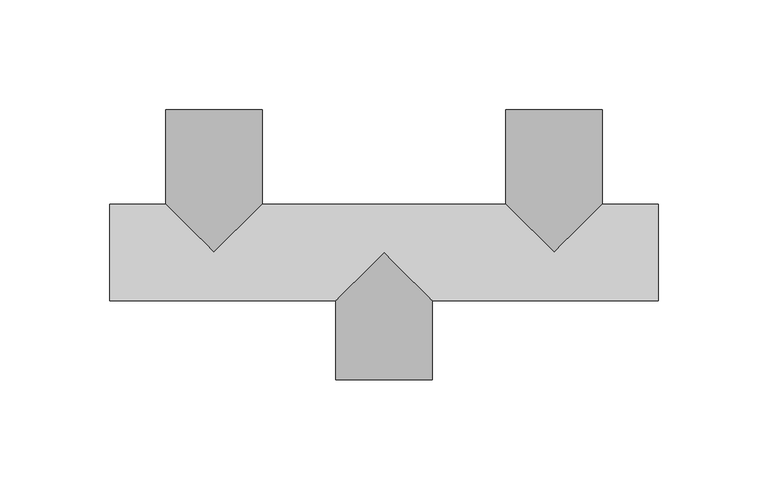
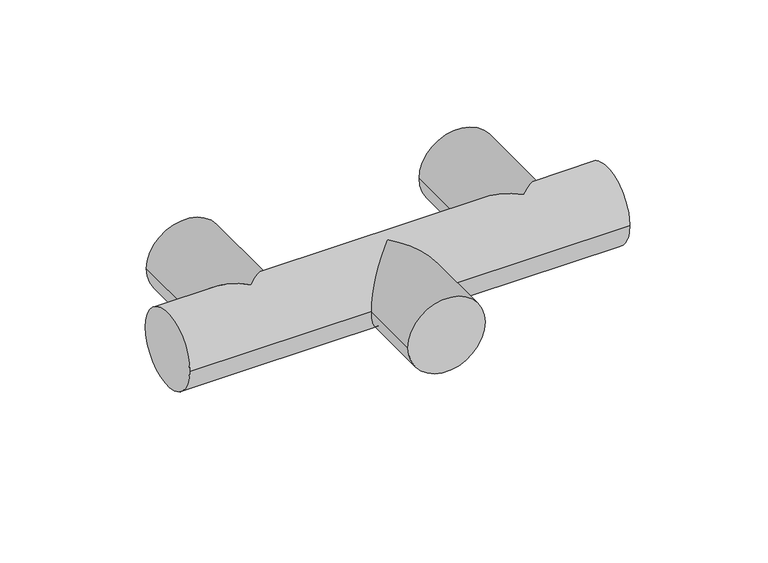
"""IFC4 building model written with IfcOpenShell, lengths in millimetres: flow terminal geometry, BIMHealth-Taps_IPS-LOD2A-v1 : BIMHealth-Taps_IPS-LOD2A-v1."""

from ifc_helpers import new_model, si_unit, point, frame, frame_2d, origin, place, context, project, spatial, circle_curve, ellipse_curve, trimmed, segment, composite_curve, outline, extrude, source, transform, mapped, element, save
from ifc_brep_helpers import plane_surface, cylinder_surface, advanced_brep


def flow_terminal_f04b013f(model_context):
    return source(origin(), model_context, "Body", "SolidModel", [
        extrude(outline(composite_curve([segment(trimmed(circle_curve(frame_2d((202.5, 45.0)), 10.0), [point((212.5, 45.0))], [point((192.5, 45.0))], False, "CARTESIAN"), True, "CONTINUOUS"), segment(trimmed(circle_curve(frame_2d((202.5, 45.0)), 10.0), [point((192.5, 45.0))], [point((212.5, 45.0))], False, "CARTESIAN"), True, "CONTINUOUS")], self_intersect=False)), frame((0.0, 0.0, -32.2162266), z_axis=(0.0, 0.0, 1.0), x_axis=(1.0, 0.0, 0.0)), (0.0, 0.0, 1.0), 32.2162266),
        extrude(outline(composite_curve([segment(trimmed(circle_curve(frame_2d((47.5, 45.0)), 10.0), [point((37.5, 45.0))], [point((57.5, 45.0))], False, "CARTESIAN"), True, "CONTINUOUS"), segment(trimmed(circle_curve(frame_2d((47.5, 45.0)), 10.0), [point((57.5, 45.0))], [point((37.5, 45.0))], False, "CARTESIAN"), True, "CONTINUOUS")], self_intersect=False)), frame((0.0, 0.0, -32.2162266), z_axis=(0.0, 0.0, 1.0), x_axis=(1.0, 0.0, 0.0)), (0.0, 0.0, 1.0), 32.2162266),
        advanced_brep(
        [(250.0, -22.0, 0.0), (250.0, 22.0, 0.0), (0.0, -22.0, 0.0), (0.0, 22.0, 0.0), (224.5, 22.0, 0.0), (202.5, 0.0, 22.0), (180.5, 22.0, 0.0), (69.5, 22.0, 0.0), (47.5, 0.0, 22.0), (25.5, 22.0, 0.0), (103.0, -22.0, 0.0), (125.0, 0.0, 22.0), (147.0, -22.0, 0.0), (125.0, 0.0, -22.0), (47.5, 0.0, -22.0), (202.5, 0.0, -22.0), (69.5, 65.0, 0.0), (25.5, 65.0, 0.0), (180.5, 65.0, 0.0), (224.5, 65.0, 0.0), (147.0, -58.1543621, 0.0), (103.0, -58.1543621, 0.0)],
        [
            (0, 1, circle_curve(frame((250.0, 0.0, 0.0), z_axis=(1.0, 0.0, 0.0), x_axis=(0.0, 1.0, 0.0)), 22.0)),
            (1, 0, circle_curve(frame((250.0, 0.0, 0.0), z_axis=(1.0, 0.0, 0.0), x_axis=(0.0, 1.0, 0.0)), 22.0)),
            (2, 3, circle_curve(frame((0.0, 0.0, 0.0), z_axis=(-1.0, 0.0, 0.0), x_axis=(0.0, 1.0, 0.0)), 22.0)),
            (3, 2, circle_curve(frame((0.0, 0.0, 0.0), z_axis=(-1.0, 0.0, 0.0), x_axis=(0.0, 1.0, 0.0)), 22.0)),
            (1, 4),
            (4, 5, ellipse_curve(frame((202.5, 0.0, 0.0), z_axis=(0.7071067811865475, -0.7071067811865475, 0.0), x_axis=(0.7071067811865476, 0.7071067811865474, 0.0)), 31.1126984, 22.0)),
            (5, 6, ellipse_curve(frame((202.5, 0.0, 0.0), z_axis=(-0.7071067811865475, -0.7071067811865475, 0.0), x_axis=(0.7071067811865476, -0.7071067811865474, 0.0)), 31.1126984, 22.0)),
            (6, 7),
            (7, 8, ellipse_curve(frame((47.5, 0.0, 0.0), z_axis=(0.7071067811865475, -0.7071067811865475, 0.0), x_axis=(0.7071067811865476, 0.7071067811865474, 0.0)), 31.1126984, 22.0)),
            (8, 9, ellipse_curve(frame((47.5, 0.0, 0.0), z_axis=(-0.7071067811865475, -0.7071067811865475, 0.0), x_axis=(0.7071067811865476, -0.7071067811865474, 0.0)), 31.1126984, 22.0)),
            (9, 3),
            (2, 10),
            (10, 11, ellipse_curve(frame((125.0, 0.0, 0.0), z_axis=(-0.7071067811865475, 0.7071067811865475, 0.0), x_axis=(0.7071067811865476, 0.7071067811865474, 0.0)), 31.1126984, 22.0)),
            (11, 12, ellipse_curve(frame((125.0, 0.0, 0.0), z_axis=(0.7071067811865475, 0.7071067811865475, 0.0), x_axis=(0.7071067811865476, -0.7071067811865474, 0.0)), 31.1126984, 22.0)),
            (12, 0),
            (12, 13, ellipse_curve(frame((125.0, 0.0, 0.0), z_axis=(0.7071067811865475, 0.7071067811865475, 0.0), x_axis=(0.7071067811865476, -0.7071067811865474, 0.0)), 31.1126984, 22.0)),
            (13, 10, ellipse_curve(frame((125.0, 0.0, 0.0), z_axis=(-0.7071067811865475, 0.7071067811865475, 0.0), x_axis=(0.7071067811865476, 0.7071067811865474, 0.0)), 31.1126984, 22.0)),
            (9, 14, ellipse_curve(frame((47.5, 0.0, 0.0), z_axis=(-0.7071067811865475, -0.7071067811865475, 0.0), x_axis=(0.7071067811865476, -0.7071067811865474, 0.0)), 31.1126984, 22.0)),
            (14, 7, ellipse_curve(frame((47.5, 0.0, 0.0), z_axis=(0.7071067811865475, -0.7071067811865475, 0.0), x_axis=(0.7071067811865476, 0.7071067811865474, 0.0)), 31.1126984, 22.0)),
            (6, 15, ellipse_curve(frame((202.5, 0.0, 0.0), z_axis=(-0.7071067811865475, -0.7071067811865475, 0.0), x_axis=(0.7071067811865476, -0.7071067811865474, 0.0)), 31.1126984, 22.0)),
            (15, 4, ellipse_curve(frame((202.5, 0.0, 0.0), z_axis=(0.7071067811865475, -0.7071067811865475, 0.0), x_axis=(0.7071067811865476, 0.7071067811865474, 0.0)), 31.1126984, 22.0)),
            (16, 17, circle_curve(frame((47.5, 65.0, 0.0), z_axis=(0.0, 1.0, 0.0), x_axis=(-1.0, 0.0, 0.0)), 22.0)),
            (17, 16, circle_curve(frame((47.5, 65.0, 0.0), z_axis=(0.0, 1.0, 0.0), x_axis=(-1.0, 0.0, 0.0)), 22.0)),
            (18, 19, circle_curve(frame((202.5, 65.0, 0.0), z_axis=(0.0, 1.0, 0.0), x_axis=(1.0, 0.0, 0.0)), 22.0)),
            (19, 18, circle_curve(frame((202.5, 65.0, 0.0), z_axis=(0.0, 1.0, 0.0), x_axis=(1.0, 0.0, 0.0)), 22.0)),
            (17, 9),
            (7, 16),
            (19, 4),
            (6, 18),
            (20, 21, circle_curve(frame((125.0, -58.1543621, 0.0), z_axis=(0.0, -1.0, 0.0), x_axis=(-1.0, 0.0, 0.0)), 22.0)),
            (21, 20, circle_curve(frame((125.0, -58.1543621, 0.0), z_axis=(0.0, -1.0, 0.0), x_axis=(-1.0, 0.0, 0.0)), 22.0)),
            (20, 12),
            (10, 21),
        ],
        [
            plane_surface(frame((250.0, 22.0, 0.0), z_axis=(1.0, 0.0, 0.0), x_axis=(0.0, 0.0, -1.0))),
            plane_surface(frame((0.0, 22.0, 0.0), z_axis=(-1.0, 0.0, 0.0), x_axis=(0.0, 0.0, 1.0))),
            cylinder_surface(frame((0.0, 0.0, 0.0), z_axis=(1.0, 0.0, 0.0), x_axis=(0.0, 1.0, 0.0)), 22.0),
            plane_surface(frame((25.5, 65.0, 0.0), z_axis=(0.0, 1.0, 0.0), x_axis=(0.0, 0.0, -1.0))),
            cylinder_surface(frame((47.5, 0.0, 0.0), z_axis=(0.0, 1.0, 0.0), x_axis=(-1.0, 0.0, 0.0)), 22.0),
            cylinder_surface(frame((202.5, 0.0, 0.0), z_axis=(0.0, 1.0, 0.0), x_axis=(1.0, 0.0, 0.0)), 22.0),
            plane_surface(frame((103.0, -58.1543621, 0.0), z_axis=(0.0, -1.0, 0.0), x_axis=(0.0, 0.0, 1.0))),
            cylinder_surface(frame((125.0, -58.1543621, 0.0), z_axis=(0.0, 1.0, 0.0), x_axis=(-1.0, 0.0, 0.0)), 22.0),
        ],
        [
            (0, [[1, 2]]),
            (1, [[3, 4]]),
            (2, [[5, 6, 7, 8, 9, 10, 11, -3, 12, 13, 14, 15, -2]]),
            (2, [[-15, 16, 17, -12, -4, -11, 18, 19, -8, 20, 21, -5, -1]]),
            (3, [[22, 23]]),
            (3, [[24, 25]]),
            (4, [[26, -10, -9, 27, -23]]),
            (4, [[-27, -19, -18, -26, -22]]),
            (5, [[28, -21, -20, 29, -25]]),
            (5, [[-29, -7, -6, -28, -24]]),
            (6, [[30, 31]]),
            (7, [[32, -14, -13, 33, -30]]),
            (7, [[-33, -17, -16, -32, -31]]),
        ],
    ),
    ])


if __name__ == "__main__":
    model = new_model("IFC4")
    model_context = context("Model", 3, world=origin())
    ifc_project = project(units=[si_unit("LENGTHUNIT", "METRE", prefix="MILLI")], contexts=[model_context])
    site = spatial("IfcSite", under=ifc_project)
    building = spatial("IfcBuilding", under=site)
    placement = place(None, origin())
    flow_terminal_shape = flow_terminal_f04b013f(model_context)
    element("IfcFlowTerminal", 1, ObjectType="BIMHealth-Taps_IPS-LOD2A-v1 : BIMHealth-Taps_IPS-LOD2A-v1", at=placement, inside=building, context=model_context, shape_type="MappedRepresentation", body=[
        mapped(flow_terminal_shape, transform((0.0, 0.0, 0.0), x_axis=(1.0, 0.0, 0.0), y_axis=(0.0, 1.0, 0.0), z_axis=(0.0, 0.0, 1.0))),
    ])
    save(model, "model.ifc")
